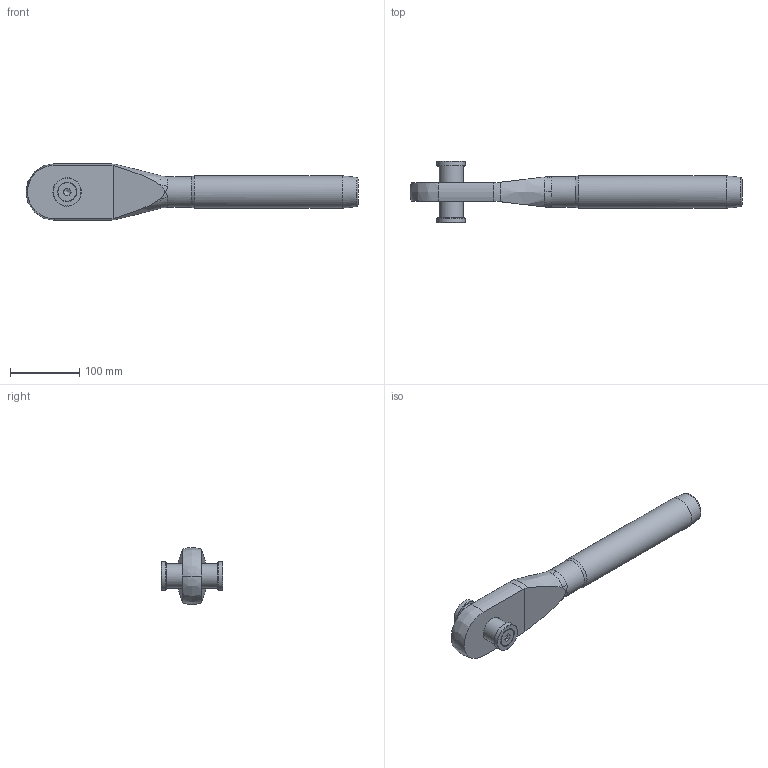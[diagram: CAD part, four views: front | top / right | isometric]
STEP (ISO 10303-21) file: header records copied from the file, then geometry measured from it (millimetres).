
FILE_DESCRIPTION(/* description */ (''),/* implementation_level */ '2;1');
FILE_NAME(/* name */ 'MCC 26_42CrMo4',/* time_stamp */ '2023-05-23T15:41:03+02:00',/* author */ (''),/* organization */ (''),/* preprocessor_version */ 'ST-DEVELOPER v16.5',/* originating_system */ 'Rhino 7.22',/* authorisation */ '');
FILE_SCHEMA (('CONFIG_CONTROL_DESIGN'));
Length unit declared in the file: millimetre
Products named in the file (1): Document
Bounding box: 480 x 89.18 x 82 mm (x, y, z)
Volume: 936866.4 mm3; surface area: 105545 mm2
Topology: 6 solids, 6 shells, 74 faces, 203 edges, 135 vertices
Faces by surface type: bspline 31, plane 27, cylinder 16
Full cylindrical faces by diameter (mm): 11.835 x2, 14 x2, 14.5 x2, 26.52 x2, 35 x1, 37 x1, 41 x2, 44.5 x1, 46.8 x1
Entity records: 3250 total; most frequent: CARTESIAN_POINT 1995, ORIENTED_EDGE 386, EDGE_CURVE 193, VERTEX_POINT 135, EDGE_LOOP 84, ADVANCED_FACE 74, FACE_OUTER_BOUND 74, B_SPLINE_CURVE_WITH_KNOTS 64
